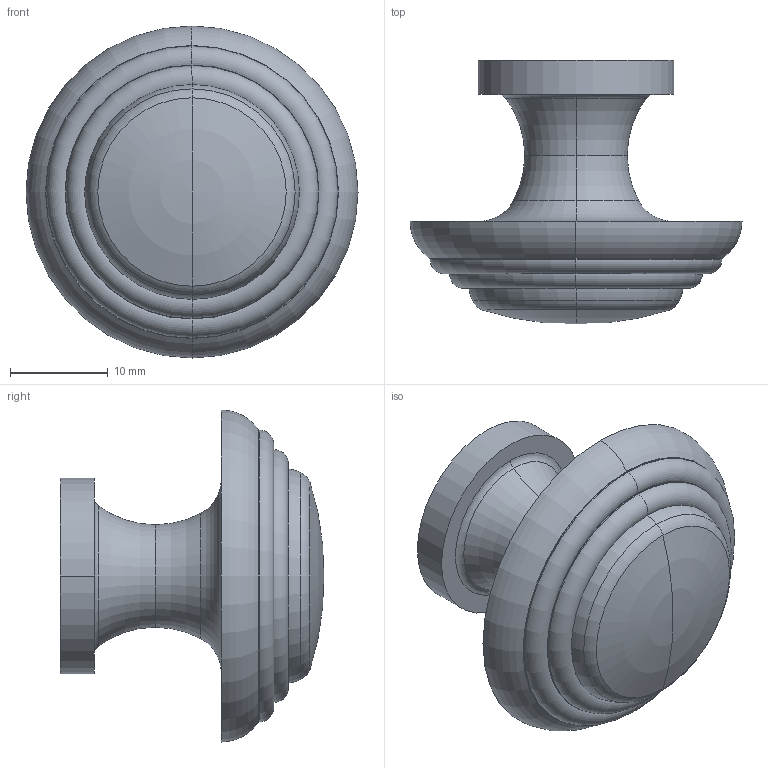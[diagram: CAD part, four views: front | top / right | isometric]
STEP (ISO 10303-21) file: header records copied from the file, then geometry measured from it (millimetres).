
FILE_DESCRIPTION( ( '' ), '1' );
FILE_NAME( 'C:/Documents and Settings/Nikhil/Desktop/Nik/Done/9113420.stp', '2013-10-23T11:34:54', ( '' ), ( '' ), ' ', ' ', ' ' );
FILE_SCHEMA( ( 'automotive_design' ) );
Length unit declared in the file: millimetre
Products named in the file (1): 1
Bounding box: 34 x 27 x 34 mm (x, y, z)
Volume: 8552.4 mm3; surface area: 3438.6 mm2
Topology: 1 solids, 1 shells, 34 faces, 80 edges, 51 vertices
Faces by surface type: torus 24, plane 6, cylinder 4
Entity records: 1953 total; most frequent: DIRECTION 222, STYLED_ITEM 164, PRESENTATION_STYLE_ASSIGNMENT 164, CARTESIAN_POINT 164, COLOUR_RGB 164, ORIENTED_EDGE 156, AXIS2_PLACEMENT_3D 109, EDGE_CURVE 78
